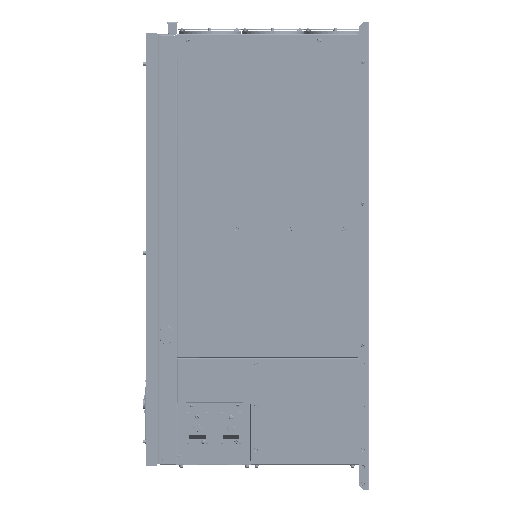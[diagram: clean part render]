
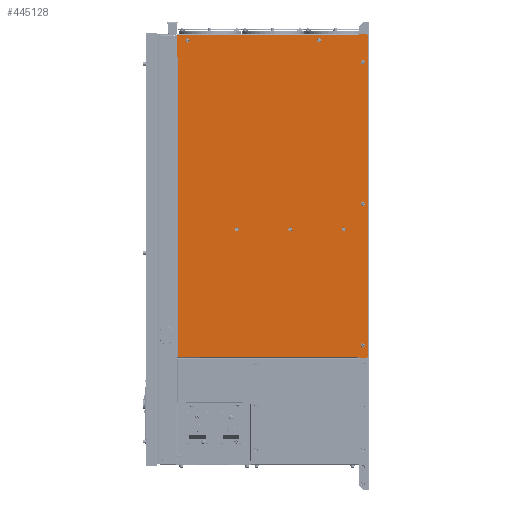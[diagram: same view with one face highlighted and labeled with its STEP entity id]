
A CAD part, left-side view. The second image highlights one B-rep face of the part: STEP entity #445128.
In plain terms, the highlighted planar face has unit normal (-1, 0, 0).
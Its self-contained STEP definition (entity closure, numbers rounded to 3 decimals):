
#20500=FACE_BOUND('',#71696,.T.);
#20501=FACE_BOUND('',#71697,.T.);
#20502=FACE_BOUND('',#71698,.T.);
#20503=FACE_BOUND('',#71699,.T.);
#20504=FACE_BOUND('',#71700,.T.);
#20505=FACE_BOUND('',#71701,.T.);
#20506=FACE_BOUND('',#71702,.T.);
#20507=FACE_BOUND('',#71703,.T.);
#26416=CIRCLE('',#474878,3.5);
#26417=CIRCLE('',#474880,0.75);
#26418=CIRCLE('',#474881,0.75);
#26419=CIRCLE('',#474882,0.75);
#26420=CIRCLE('',#474883,3.5);
#26421=CIRCLE('',#474884,3.5);
#26422=CIRCLE('',#474885,3.5);
#26423=CIRCLE('',#474886,3.5);
#26424=CIRCLE('',#474887,4.6);
#26425=CIRCLE('',#474888,4.6);
#26426=CIRCLE('',#474889,4.6);
#26427=CIRCLE('',#474890,4.6);
#26428=CIRCLE('',#474891,4.6);
#26429=CIRCLE('',#474892,4.6);
#46267=FACE_OUTER_BOUND('',#71695,.T.);
#71695=EDGE_LOOP('',(#347628,#347629,#347630,#347631,#347632,#347633,#347634,
#347635,#347636,#347637,#347638,#347639,#347640,#347641,#347642));
#71696=EDGE_LOOP('',(#347643));
#71697=EDGE_LOOP('',(#347644));
#71698=EDGE_LOOP('',(#347645));
#71699=EDGE_LOOP('',(#347646));
#71700=EDGE_LOOP('',(#347647));
#71701=EDGE_LOOP('',(#347648,#347649));
#71702=EDGE_LOOP('',(#347650,#347651));
#71703=EDGE_LOOP('',(#347652,#347653));
#108437=LINE('',#727041,#153996);
#108438=LINE('',#727043,#153997);
#108439=LINE('',#727045,#153998);
#108440=LINE('',#727047,#153999);
#108441=LINE('',#727049,#154000);
#108442=LINE('',#727053,#154001);
#108443=LINE('',#727055,#154002);
#108444=LINE('',#727057,#154003);
#108445=LINE('',#727060,#154004);
#108446=LINE('',#727062,#154005);
#108447=LINE('',#727066,#154006);
#108448=LINE('',#727067,#154007);
#153996=VECTOR('',#547854,4.243);
#153997=VECTOR('',#547855,781.8);
#153998=VECTOR('',#547856,4.243);
#153999=VECTOR('',#547857,20.5);
#154000=VECTOR('',#547858,1.05);
#154001=VECTOR('',#547861,441.95);
#154002=VECTOR('',#547862,53.7);
#154003=VECTOR('',#547863,1.05);
#154004=VECTOR('',#547866,729.75);
#154005=VECTOR('',#547867,440.15);
#154006=VECTOR('',#547870,1.05);
#154007=VECTOR('',#547871,20.5);
#201576=VERTEX_POINT('',#726964);
#201607=VERTEX_POINT('',#727035);
#201608=VERTEX_POINT('',#727039);
#201609=VERTEX_POINT('',#727040);
#201610=VERTEX_POINT('',#727042);
#201611=VERTEX_POINT('',#727044);
#201612=VERTEX_POINT('',#727046);
#201613=VERTEX_POINT('',#727048);
#201614=VERTEX_POINT('',#727050);
#201615=VERTEX_POINT('',#727052);
#201616=VERTEX_POINT('',#727054);
#201617=VERTEX_POINT('',#727056);
#201618=VERTEX_POINT('',#727058);
#201619=VERTEX_POINT('',#727061);
#201620=VERTEX_POINT('',#727063);
#201621=VERTEX_POINT('',#727065);
#201622=VERTEX_POINT('',#727068);
#201623=VERTEX_POINT('',#727070);
#201624=VERTEX_POINT('',#727072);
#201625=VERTEX_POINT('',#727074);
#201626=VERTEX_POINT('',#727076);
#201627=VERTEX_POINT('',#727077);
#201628=VERTEX_POINT('',#727080);
#201629=VERTEX_POINT('',#727081);
#201630=VERTEX_POINT('',#727084);
#201631=VERTEX_POINT('',#727085);
#254082=EDGE_CURVE('',#201607,#201607,#26416,.T.);
#254083=EDGE_CURVE('',#201608,#201609,#108437,.T.);
#254084=EDGE_CURVE('',#201609,#201610,#108438,.T.);
#254085=EDGE_CURVE('',#201610,#201611,#108439,.T.);
#254086=EDGE_CURVE('',#201611,#201612,#108440,.T.);
#254087=EDGE_CURVE('',#201612,#201613,#108441,.T.);
#254088=EDGE_CURVE('',#201613,#201614,#26417,.T.);
#254089=EDGE_CURVE('',#201614,#201615,#108442,.T.);
#254090=EDGE_CURVE('',#201615,#201616,#108443,.T.);
#254091=EDGE_CURVE('',#201616,#201617,#108444,.T.);
#254092=EDGE_CURVE('',#201617,#201618,#26418,.T.);
#254093=EDGE_CURVE('',#201618,#201576,#108445,.T.);
#254094=EDGE_CURVE('',#201576,#201619,#108446,.T.);
#254095=EDGE_CURVE('',#201620,#201619,#26419,.T.);
#254096=EDGE_CURVE('',#201621,#201620,#108447,.T.);
#254097=EDGE_CURVE('',#201621,#201608,#108448,.T.);
#254098=EDGE_CURVE('',#201622,#201622,#26420,.T.);
#254099=EDGE_CURVE('',#201623,#201623,#26421,.T.);
#254100=EDGE_CURVE('',#201624,#201624,#26422,.T.);
#254101=EDGE_CURVE('',#201625,#201625,#26423,.T.);
#254102=EDGE_CURVE('',#201626,#201627,#26424,.T.);
#254103=EDGE_CURVE('',#201627,#201626,#26425,.T.);
#254104=EDGE_CURVE('',#201628,#201629,#26426,.T.);
#254105=EDGE_CURVE('',#201629,#201628,#26427,.T.);
#254106=EDGE_CURVE('',#201630,#201631,#26428,.T.);
#254107=EDGE_CURVE('',#201631,#201630,#26429,.T.);
#347628=ORIENTED_EDGE('',*,*,#254083,.T.);
#347629=ORIENTED_EDGE('',*,*,#254084,.T.);
#347630=ORIENTED_EDGE('',*,*,#254085,.T.);
#347631=ORIENTED_EDGE('',*,*,#254086,.T.);
#347632=ORIENTED_EDGE('',*,*,#254087,.T.);
#347633=ORIENTED_EDGE('',*,*,#254088,.T.);
#347634=ORIENTED_EDGE('',*,*,#254089,.T.);
#347635=ORIENTED_EDGE('',*,*,#254090,.T.);
#347636=ORIENTED_EDGE('',*,*,#254091,.T.);
#347637=ORIENTED_EDGE('',*,*,#254092,.T.);
#347638=ORIENTED_EDGE('',*,*,#254093,.T.);
#347639=ORIENTED_EDGE('',*,*,#254094,.T.);
#347640=ORIENTED_EDGE('',*,*,#254095,.F.);
#347641=ORIENTED_EDGE('',*,*,#254096,.F.);
#347642=ORIENTED_EDGE('',*,*,#254097,.T.);
#347643=ORIENTED_EDGE('',*,*,#254098,.F.);
#347644=ORIENTED_EDGE('',*,*,#254099,.F.);
#347645=ORIENTED_EDGE('',*,*,#254100,.F.);
#347646=ORIENTED_EDGE('',*,*,#254101,.F.);
#347647=ORIENTED_EDGE('',*,*,#254082,.F.);
#347648=ORIENTED_EDGE('',*,*,#254102,.T.);
#347649=ORIENTED_EDGE('',*,*,#254103,.T.);
#347650=ORIENTED_EDGE('',*,*,#254104,.T.);
#347651=ORIENTED_EDGE('',*,*,#254105,.T.);
#347652=ORIENTED_EDGE('',*,*,#254106,.T.);
#347653=ORIENTED_EDGE('',*,*,#254107,.T.);
#424530=PLANE('',#474879);
#445128=ADVANCED_FACE('',(#46267,#20500,#20501,#20502,#20503,#20504,#20505,
#20506,#20507),#424530,.T.);
#474878=AXIS2_PLACEMENT_3D('',#727037,#547850,#547851);
#474879=AXIS2_PLACEMENT_3D('',#727038,#547852,#547853);
#474880=AXIS2_PLACEMENT_3D('',#727051,#547859,#547860);
#474881=AXIS2_PLACEMENT_3D('',#727059,#547864,#547865);
#474882=AXIS2_PLACEMENT_3D('',#727064,#547868,#547869);
#474883=AXIS2_PLACEMENT_3D('',#727069,#547872,#547873);
#474884=AXIS2_PLACEMENT_3D('',#727071,#547874,#547875);
#474885=AXIS2_PLACEMENT_3D('',#727073,#547876,#547877);
#474886=AXIS2_PLACEMENT_3D('',#727075,#547878,#547879);
#474887=AXIS2_PLACEMENT_3D('',#727078,#547880,#547881);
#474888=AXIS2_PLACEMENT_3D('',#727079,#547882,#547883);
#474889=AXIS2_PLACEMENT_3D('',#727082,#547884,#547885);
#474890=AXIS2_PLACEMENT_3D('',#727083,#547886,#547887);
#474891=AXIS2_PLACEMENT_3D('',#727086,#547888,#547889);
#474892=AXIS2_PLACEMENT_3D('',#727087,#547890,#547891);
#547850=DIRECTION('center_axis',(-1.,0.,0.));
#547851=DIRECTION('ref_axis',(0.,0.,-1.));
#547852=DIRECTION('center_axis',(-1.,0.,0.));
#547853=DIRECTION('ref_axis',(0.,0.,1.));
#547854=DIRECTION('',(0.,-0.707,0.707));
#547855=DIRECTION('',(0.,0.,1.));
#547856=DIRECTION('',(0.,0.707,0.707));
#547857=DIRECTION('',(0.,1.,0.));
#547858=DIRECTION('',(0.,0.,-1.));
#547859=DIRECTION('center_axis',(1.,0.,0.));
#547860=DIRECTION('ref_axis',(0.,-1.,0.));
#547861=DIRECTION('',(0.,1.,0.));
#547862=DIRECTION('',(0.,0.,-1.));
#547863=DIRECTION('',(0.,-1.,0.));
#547864=DIRECTION('center_axis',(1.,0.,0.));
#547865=DIRECTION('ref_axis',(0.,0.,1.));
#547866=DIRECTION('',(0.,0.,-1.));
#547867=DIRECTION('',(0.,-1.,0.));
#547868=DIRECTION('center_axis',(-1.,0.,0.));
#547869=DIRECTION('ref_axis',(0.,-1.,0.));
#547870=DIRECTION('',(0.,0.,1.));
#547871=DIRECTION('',(0.,-1.,0.));
#547872=DIRECTION('center_axis',(-1.,0.,0.));
#547873=DIRECTION('ref_axis',(0.,0.,-1.));
#547874=DIRECTION('center_axis',(-1.,0.,0.));
#547875=DIRECTION('ref_axis',(0.,0.,-1.));
#547876=DIRECTION('center_axis',(-1.,0.,0.));
#547877=DIRECTION('ref_axis',(0.,0.,-1.));
#547878=DIRECTION('center_axis',(-1.,0.,0.));
#547879=DIRECTION('ref_axis',(0.,0.,-1.));
#547880=DIRECTION('center_axis',(1.,0.,0.));
#547881=DIRECTION('ref_axis',(0.,0.,1.));
#547882=DIRECTION('center_axis',(1.,0.,0.));
#547883=DIRECTION('ref_axis',(0.,0.,1.));
#547884=DIRECTION('center_axis',(1.,0.,0.));
#547885=DIRECTION('ref_axis',(0.,0.,1.));
#547886=DIRECTION('center_axis',(1.,0.,0.));
#547887=DIRECTION('ref_axis',(0.,0.,1.));
#547888=DIRECTION('center_axis',(1.,0.,0.));
#547889=DIRECTION('ref_axis',(0.,0.,1.));
#547890=DIRECTION('center_axis',(1.,0.,0.));
#547891=DIRECTION('ref_axis',(0.,0.,1.));
#726964=CARTESIAN_POINT('',(-184.5,466.9,-246.));
#727035=CARTESIAN_POINT('',(-184.5,16.,-214.3));
#727037=CARTESIAN_POINT('Origin',(-184.5,16.,-217.8));
#727038=CARTESIAN_POINT('Origin',(-184.5,-304.38,-440.054));
#727039=CARTESIAN_POINT('',(-184.5,5.5,-247.8));
#727040=CARTESIAN_POINT('',(-184.5,2.5,-244.8));
#727041=CARTESIAN_POINT('',(-184.5,5.5,-247.8));
#727042=CARTESIAN_POINT('',(-184.5,2.5,537.));
#727043=CARTESIAN_POINT('',(-184.5,2.5,-244.8));
#727044=CARTESIAN_POINT('',(-184.5,5.5,540.));
#727045=CARTESIAN_POINT('',(-184.5,2.5,537.));
#727046=CARTESIAN_POINT('',(-184.5,26.,540.));
#727047=CARTESIAN_POINT('',(-184.5,5.5,540.));
#727048=CARTESIAN_POINT('',(-184.5,26.,538.95));
#727049=CARTESIAN_POINT('',(-184.5,26.,540.));
#727050=CARTESIAN_POINT('',(-184.5,26.75,538.2));
#727051=CARTESIAN_POINT('Origin',(-184.5,26.75,538.95));
#727052=CARTESIAN_POINT('',(-184.5,468.7,538.2));
#727053=CARTESIAN_POINT('',(-184.5,26.75,538.2));
#727054=CARTESIAN_POINT('',(-184.5,468.7,484.5));
#727055=CARTESIAN_POINT('',(-184.5,468.7,538.2));
#727056=CARTESIAN_POINT('',(-184.5,467.65,484.5));
#727057=CARTESIAN_POINT('',(-184.5,468.7,484.5));
#727058=CARTESIAN_POINT('',(-184.5,466.9,483.75));
#727059=CARTESIAN_POINT('Origin',(-184.5,467.65,483.75));
#727060=CARTESIAN_POINT('',(-184.5,466.9,483.75));
#727061=CARTESIAN_POINT('',(-184.5,26.75,-246.));
#727062=CARTESIAN_POINT('',(-184.5,466.9,-246.));
#727063=CARTESIAN_POINT('',(-184.5,26.,-246.75));
#727064=CARTESIAN_POINT('Origin',(-184.5,26.75,-246.75));
#727065=CARTESIAN_POINT('',(-184.5,26.,-247.8));
#727066=CARTESIAN_POINT('',(-184.5,26.,-247.8));
#727067=CARTESIAN_POINT('',(-184.5,26.,-247.8));
#727068=CARTESIAN_POINT('',(-184.5,16.,130.7));
#727069=CARTESIAN_POINT('Origin',(-184.5,16.,127.2));
#727070=CARTESIAN_POINT('',(-184.5,16.,475.7));
#727071=CARTESIAN_POINT('Origin',(-184.5,16.,472.2));
#727072=CARTESIAN_POINT('',(-184.5,122.5,528.5));
#727073=CARTESIAN_POINT('Origin',(-184.5,122.5,525.));
#727074=CARTESIAN_POINT('',(-184.5,442.5,528.5));
#727075=CARTESIAN_POINT('Origin',(-184.5,442.5,525.));
#727076=CARTESIAN_POINT('',(-184.5,322.5,60.4));
#727077=CARTESIAN_POINT('',(-184.5,322.5,69.6));
#727078=CARTESIAN_POINT('Origin',(-184.5,322.5,65.));
#727079=CARTESIAN_POINT('Origin',(-184.5,322.5,65.));
#727080=CARTESIAN_POINT('',(-184.5,192.5,60.4));
#727081=CARTESIAN_POINT('',(-184.5,192.5,69.6));
#727082=CARTESIAN_POINT('Origin',(-184.5,192.5,65.));
#727083=CARTESIAN_POINT('Origin',(-184.5,192.5,65.));
#727084=CARTESIAN_POINT('',(-184.5,62.5,60.4));
#727085=CARTESIAN_POINT('',(-184.5,62.5,69.6));
#727086=CARTESIAN_POINT('Origin',(-184.5,62.5,65.));
#727087=CARTESIAN_POINT('Origin',(-184.5,62.5,65.));
